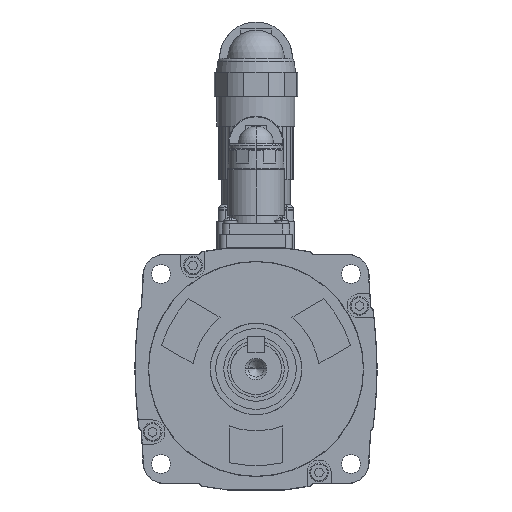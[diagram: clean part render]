
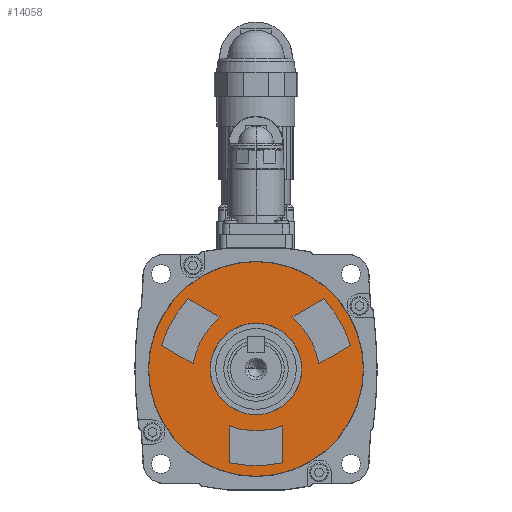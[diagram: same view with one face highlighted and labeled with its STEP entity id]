
A CAD part, front view. The second image highlights one B-rep face of the part: STEP entity #14058.
In plain terms, the highlighted planar face has unit normal (0, -1, 0).
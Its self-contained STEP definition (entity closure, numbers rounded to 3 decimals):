
#9232=VERTEX_POINT('',#26252);
#9238=VERTEX_POINT('',#26258);
#9988=EDGE_CURVE('',#20964,#22740,#27096,.T.);
#10396=VERTEX_POINT('',#27562);
#10618=EDGE_CURVE('',#22740,#20682,#27803,.T.);
#10918=VERTEX_POINT('',#28128);
#11076=VERTEX_POINT('',#28295);
#12014=EDGE_CURVE('',#9232,#21264,#29334,.T.);
#12386=EDGE_CURVE('',#16142,#19330,#29736,.T.);
#12994=EDGE_CURVE('',#24114,#20964,#30392,.T.);
#13988=VERTEX_POINT('',#31498);
#14058=ADVANCED_FACE('',(#31571,#31572,#31573,#31574,#31575),#31576,.T.);
#15932=EDGE_CURVE('',#18456,#17360,#33657,.T.);
#16142=VERTEX_POINT('',#33879);
#16332=EDGE_CURVE('',#19006,#9238,#34086,.T.);
#17196=EDGE_CURVE('',#20682,#24114,#35030,.T.);
#17360=VERTEX_POINT('',#35205);
#18456=VERTEX_POINT('',#36430);
#19006=VERTEX_POINT('',#37032);
#19330=VERTEX_POINT('',#37391);
#19420=EDGE_CURVE('',#10918,#19006,#37487,.T.);
#20682=VERTEX_POINT('',#38860);
#20964=VERTEX_POINT('',#39174);
#21264=VERTEX_POINT('',#39502);
#21460=EDGE_CURVE('',#10396,#13988,#39718,.T.);
#22098=EDGE_CURVE('',#21264,#10396,#40416,.T.);
#22612=EDGE_CURVE('',#9238,#11076,#40985,.T.);
#22740=VERTEX_POINT('',#41122);
#23694=EDGE_CURVE('',#11076,#10918,#42177,.T.);
#24114=VERTEX_POINT('',#42636);
#24168=EDGE_CURVE('',#13988,#9232,#42697,.T.);
#24528=EDGE_CURVE('',#19330,#16142,#43092,.T.);
#25374=EDGE_CURVE('',#17360,#18456,#44022,.T.);
#26252=CARTESIAN_POINT('',(25.191,-111.952,26.068));
#26258=CARTESIAN_POINT('',(-9.98,-111.952,-34.85));
#27096=CIRCLE('',#46492,28.952);
#27562=CARTESIAN_POINT('',(23.348,-111.952,1.956));
#27803=LINE('',#47562,#47563);
#28128=CARTESIAN_POINT('',(9.98,-111.952,-21.198));
#28295=CARTESIAN_POINT('',(-9.98,-111.952,-21.198));
#29334=CIRCLE('',#49981,46.896);
#29736=CIRCLE('',#50566,16.966);
#30392=LINE('',#51655,#51656);
#31498=CARTESIAN_POINT('',(13.368,-111.952,19.242));
#31571=FACE_BOUND('',#53453,.T.);
#31572=FACE_BOUND('',#53454,.T.);
#31573=FACE_BOUND('',#53455,.T.);
#31574=FACE_BOUND('',#53456,.T.);
#31575=FACE_OUTER_BOUND('',#53457,.T.);
#31576=PLANE('',#53458);
#33657=CIRCLE('',#56707,39.92);
#33879=CARTESIAN_POINT('',(-16.966,-111.952,0.));
#34086=CIRCLE('',#57391,46.896);
#35030=CIRCLE('',#58874,46.896);
#35205=CARTESIAN_POINT('',(-39.92,-111.952,0.));
#36430=CARTESIAN_POINT('',(39.92,-111.952,0.0));
#37032=CARTESIAN_POINT('',(9.98,-111.952,-34.85));
#37391=CARTESIAN_POINT('',(16.966,-111.952,0.0));
#37487=LINE('',#62774,#62775);
#38860=CARTESIAN_POINT('',(-35.171,-111.952,8.782));
#39174=CARTESIAN_POINT('',(-13.368,-111.952,19.242));
#39502=CARTESIAN_POINT('',(35.171,-111.952,8.782));
#39718=CIRCLE('',#66249,28.952);
#40416=LINE('',#67310,#67311);
#40985=LINE('',#68103,#68104);
#41122=CARTESIAN_POINT('',(-23.348,-111.952,1.956));
#42177=CIRCLE('',#69958,28.952);
#42636=CARTESIAN_POINT('',(-25.191,-111.952,26.068));
#42697=LINE('',#70832,#70833);
#43092=CIRCLE('',#71452,16.966);
#44022=CIRCLE('',#72849,39.92);
#46492=AXIS2_PLACEMENT_3D('',#74879,#74880,#74881);
#47562=CARTESIAN_POINT('',(-20.081,-111.952,0.07));
#47563=VECTOR('',#75794,1.0);
#49981=AXIS2_PLACEMENT_3D('',#77472,#77473,#77474);
#50566=AXIS2_PLACEMENT_3D('',#77883,#77884,#77885);
#51655=CARTESIAN_POINT('',(-4.189,-111.952,13.942));
#51656=VECTOR('',#78558,1.0);
#53453=EDGE_LOOP('',(#79920,#79921,#79922,#79923));
#53454=EDGE_LOOP('',(#79924,#79925,#79926,#79927));
#53455=EDGE_LOOP('',(#79928,#79929,#79930,#79931));
#53456=EDGE_LOOP('',(#79932,#79933));
#53457=EDGE_LOOP('',(#79934,#79935));
#53458=AXIS2_PLACEMENT_3D('',#79936,#79937,#79938);
#56707=AXIS2_PLACEMENT_3D('',#82405,#82406,#82407);
#57391=AXIS2_PLACEMENT_3D('',#82815,#82816,#82817);
#58874=AXIS2_PLACEMENT_3D('',#83841,#83842,#83843);
#62774=CARTESIAN_POINT('',(9.98,-111.952,-17.425));
#62775=VECTOR('',#86657,1.0);
#66249=AXIS2_PLACEMENT_3D('',#89150,#89151,#89152);
#67310=CARTESIAN_POINT('',(14.169,-111.952,-3.344));
#67311=VECTOR('',#89931,1.0);
#68103=CARTESIAN_POINT('',(-9.98,-111.952,-10.599));
#68104=VECTOR('',#90577,1.0);
#69958=AXIS2_PLACEMENT_3D('',#91941,#91942,#91943);
#70832=CARTESIAN_POINT('',(10.101,-111.952,17.355));
#70833=VECTOR('',#92477,1.0);
#71452=AXIS2_PLACEMENT_3D('',#92944,#92945,#92946);
#72849=AXIS2_PLACEMENT_3D('',#94032,#94033,#94034);
#74879=CARTESIAN_POINT('',(5.179,-111.952,-2.99));
#74880=DIRECTION('',(0.0,-1.0,0.0));
#74881=DIRECTION('',(-0.641,0.0,0.768));
#75794=DIRECTION('',(-0.866,0.0,0.5));
#77472=CARTESIAN_POINT('',(-9.502,-111.952,-5.486));
#77473=DIRECTION('',(-0.0,1.0,0.0));
#77474=DIRECTION('',(0.953,0.0,0.304));
#77883=CARTESIAN_POINT('',(0.0,-111.952,0.0));
#77884=DIRECTION('',(-0.0,1.0,0.0));
#77885=DIRECTION('',(1.0,0.0,0.0));
#78558=DIRECTION('',(0.866,0.0,-0.5));
#79920=ORIENTED_EDGE('',*,*,#17196,.T.);
#79921=ORIENTED_EDGE('',*,*,#12994,.T.);
#79922=ORIENTED_EDGE('',*,*,#9988,.T.);
#79923=ORIENTED_EDGE('',*,*,#10618,.T.);
#79924=ORIENTED_EDGE('',*,*,#12014,.T.);
#79925=ORIENTED_EDGE('',*,*,#22098,.T.);
#79926=ORIENTED_EDGE('',*,*,#21460,.T.);
#79927=ORIENTED_EDGE('',*,*,#24168,.T.);
#79928=ORIENTED_EDGE('',*,*,#16332,.T.);
#79929=ORIENTED_EDGE('',*,*,#22612,.T.);
#79930=ORIENTED_EDGE('',*,*,#23694,.T.);
#79931=ORIENTED_EDGE('',*,*,#19420,.T.);
#79932=ORIENTED_EDGE('',*,*,#24528,.T.);
#79933=ORIENTED_EDGE('',*,*,#12386,.T.);
#79934=ORIENTED_EDGE('',*,*,#15932,.T.);
#79935=ORIENTED_EDGE('',*,*,#25374,.T.);
#79936=CARTESIAN_POINT('',(0.0,-111.952,0.0));
#79937=DIRECTION('',(0.0,-1.0,0.0));
#79938=DIRECTION('',(1.0,0.0,0.0));
#82405=CARTESIAN_POINT('',(0.0,-111.952,0.0));
#82406=DIRECTION('',(0.0,-1.0,0.0));
#82407=DIRECTION('',(1.0,0.0,0.0));
#82815=CARTESIAN_POINT('',(0.,-111.952,10.972));
#82816=DIRECTION('',(0.0,1.0,-0.0));
#82817=DIRECTION('',(-0.213,-0.0,-0.977));
#83841=CARTESIAN_POINT('',(9.502,-111.952,-5.486));
#83842=DIRECTION('',(-0.0,1.0,0.0));
#83843=DIRECTION('',(-0.74,-0.0,0.673));
#86657=DIRECTION('',(0.0,0.0,-1.0));
#89150=CARTESIAN_POINT('',(-5.179,-111.952,-2.99));
#89151=DIRECTION('',(0.0,-1.0,0.0));
#89152=DIRECTION('',(0.985,0.0,0.171));
#89931=DIRECTION('',(-0.866,-0.0,-0.5));
#90577=DIRECTION('',(0.0,0.0,1.0));
#91941=CARTESIAN_POINT('',(0.,-111.952,5.98));
#91942=DIRECTION('',(0.0,-1.0,-0.0));
#91943=DIRECTION('',(-0.345,0.0,-0.939));
#92477=DIRECTION('',(0.866,0.0,0.5));
#92944=CARTESIAN_POINT('',(0.0,-111.952,0.0));
#92945=DIRECTION('',(-0.0,1.0,0.0));
#92946=DIRECTION('',(1.0,0.0,0.0));
#94032=CARTESIAN_POINT('',(0.0,-111.952,0.0));
#94033=DIRECTION('',(0.0,-1.0,0.0));
#94034=DIRECTION('',(1.0,0.0,0.0));
